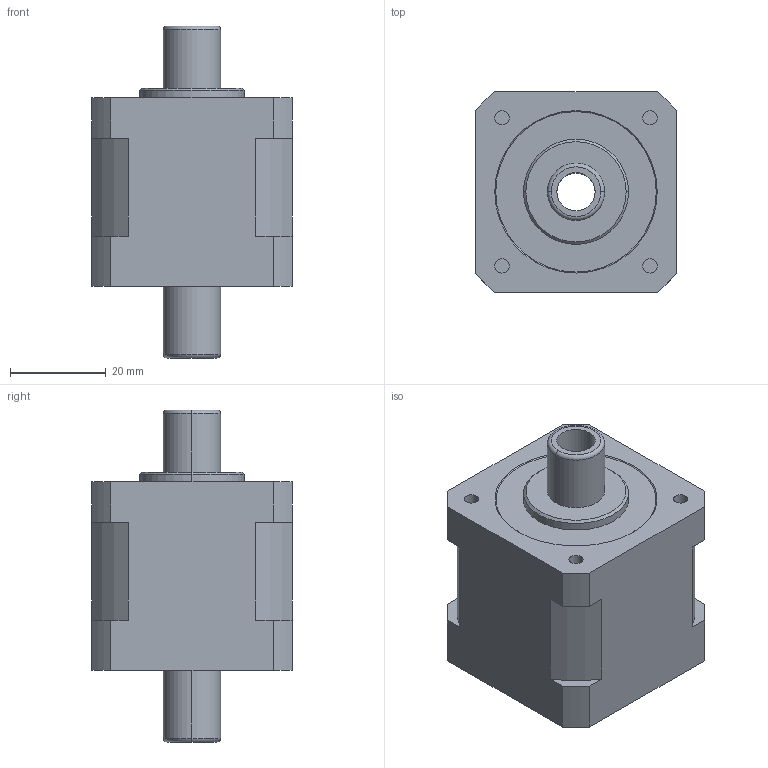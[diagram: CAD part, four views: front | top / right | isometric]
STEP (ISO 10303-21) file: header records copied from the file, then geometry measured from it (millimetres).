
FILE_DESCRIPTION (( 'STEP AP203' ), '1' );
FILE_NAME ('PMSB-B42D2DHW_3D.STEP', '2016-12-02T04:58:24', ( 'user01' ), ( '' ), 'SwSTEP 2.0', 'SolidWorks 2014', '' );
FILE_SCHEMA (( 'CONFIG_CONTROL_DESIGN' ));
Length unit declared in the file: millimetre
Products named in the file (1): PMSB-B42D2DHW_3D
Bounding box: 42 x 42 x 69.5 mm (x, y, z)
Volume: 67256.4 mm3; surface area: 12689.2 mm2
Topology: 1 solids, 1 shells, 58 faces, 138 edges, 90 vertices
Faces by surface type: cylinder 28, plane 22, torus 4, cone 4
Entity records: 1785 total; most frequent: DIRECTION 326, CARTESIAN_POINT 287, ORIENTED_EDGE 276, EDGE_CURVE 138, AXIS2_PLACEMENT_3D 129, VERTEX_POINT 90, CIRCLE 70, VECTOR 68
